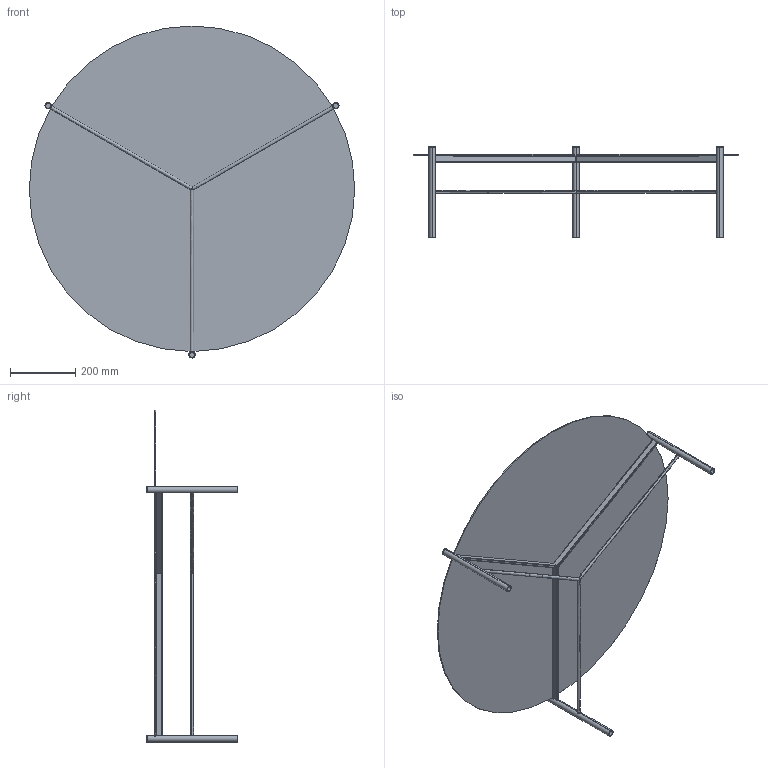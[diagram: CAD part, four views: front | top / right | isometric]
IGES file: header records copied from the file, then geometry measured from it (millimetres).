
Start section: SolidWorks IGES file using analytic representation for surfaces
Global section: file name: Y:\eforma\TECNICO\SOLIDWORKS\E-FORMA\2-TAVOLINI\JACK\02 parts\J103S.IGS; native system: SolidWorks 2022; preprocessor: SolidWorks 2022; author: eforma.tech; date: 240806.133009; units: millimetre
Bounding box: 999.98 x 279 x 1020.07 mm (x, y, z)
Volume: 2569899.2 mm3; surface area: 1913313.9 mm2
Topology: 13 solids, 13 shells, 121 faces, 287 edges, 190 vertices
Faces by surface type: revolution 71, plane 50
